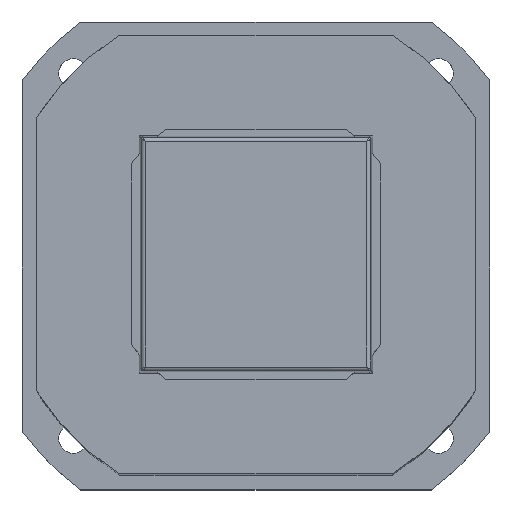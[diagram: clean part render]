
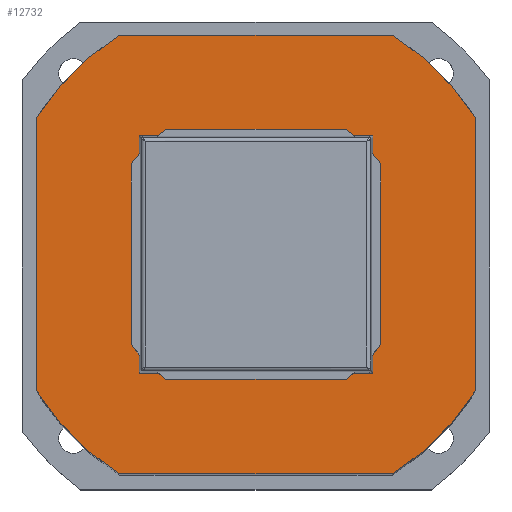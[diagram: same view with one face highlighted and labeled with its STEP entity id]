
A CAD part, top view. The second image highlights one B-rep face of the part: STEP entity #12732.
In plain terms, the highlighted planar face has unit normal (0, 0, 1).
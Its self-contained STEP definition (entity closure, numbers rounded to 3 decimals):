
#3541=CIRCLE('',#14130,132.5);
#3543=CIRCLE('',#14134,132.5);
#3545=CIRCLE('',#14138,132.5);
#3547=CIRCLE('',#14144,132.5);
#4315=VERTEX_POINT('',#18307);
#4316=VERTEX_POINT('',#18309);
#4318=VERTEX_POINT('',#18315);
#4320=VERTEX_POINT('',#18321);
#4322=VERTEX_POINT('',#18327);
#4324=VERTEX_POINT('',#18333);
#4326=VERTEX_POINT('',#18339);
#4328=VERTEX_POINT('',#18345);
#5372=LINE('',#18316,#15368);
#5376=LINE('',#18328,#15372);
#5380=LINE('',#18340,#15376);
#5382=LINE('',#18344,#15378);
#6468=EDGE_CURVE('',#4316,#4315,#3541,.T.);
#6472=EDGE_CURVE('',#4315,#4318,#5372,.T.);
#6475=EDGE_CURVE('',#4318,#4320,#3543,.T.);
#6478=EDGE_CURVE('',#4320,#4322,#5376,.T.);
#6481=EDGE_CURVE('',#4322,#4324,#3545,.T.);
#6484=EDGE_CURVE('',#4324,#4326,#5380,.T.);
#6486=EDGE_CURVE('',#4328,#4316,#5382,.T.);
#6489=EDGE_CURVE('',#4326,#4328,#3547,.T.);
#8659=ORIENTED_EDGE('',*,*,#6484,.T.);
#8660=ORIENTED_EDGE('',*,*,#6489,.T.);
#8661=ORIENTED_EDGE('',*,*,#6486,.T.);
#8662=ORIENTED_EDGE('',*,*,#6468,.T.);
#8663=ORIENTED_EDGE('',*,*,#6472,.T.);
#8664=ORIENTED_EDGE('',*,*,#6475,.T.);
#8665=ORIENTED_EDGE('',*,*,#6478,.T.);
#8666=ORIENTED_EDGE('',*,*,#6481,.T.);
#11056=EDGE_LOOP('',(#8659,#8660,#8661,#8662,#8663,#8664,#8665,#8666));
#11946=FACE_BOUND('',#11056,.T.);
#12732=ADVANCED_FACE('',(#11946),#16079,.T.);
#14130=AXIS2_PLACEMENT_3D('',#18308,#24394,#24395);
#14134=AXIS2_PLACEMENT_3D('',#18322,#24406,#24407);
#14138=AXIS2_PLACEMENT_3D('',#18334,#24417,#24418);
#14144=AXIS2_PLACEMENT_3D('',#18350,#24432,#24433);
#14145=AXIS2_PLACEMENT_3D('',#18351,#24434,$);
#15368=VECTOR('',#24400,1.);
#15372=VECTOR('',#24411,1.);
#15376=VECTOR('',#24422,1.);
#15378=VECTOR('',#24425,1.);
#16079=PLANE('',#14145);
#18307=CARTESIAN_POINT('',(-70.,-112.5,0.));
#18308=CARTESIAN_POINT('',(0.,0.,0.));
#18309=CARTESIAN_POINT('',(-112.5,-70.,0.));
#18315=CARTESIAN_POINT('',(70.,-112.5,0.));
#18316=CARTESIAN_POINT('',(-70.,-112.5,0.));
#18321=CARTESIAN_POINT('',(112.5,-70.,0.));
#18322=CARTESIAN_POINT('',(0.,0.,0.));
#18327=CARTESIAN_POINT('',(112.5,70.,0.));
#18328=CARTESIAN_POINT('',(112.5,-70.,0.));
#18333=CARTESIAN_POINT('',(70.,112.5,0.));
#18334=CARTESIAN_POINT('',(0.,0.,0.));
#18339=CARTESIAN_POINT('',(-70.,112.5,0.));
#18340=CARTESIAN_POINT('',(70.,112.5,0.));
#18344=CARTESIAN_POINT('',(-112.5,70.,0.));
#18345=CARTESIAN_POINT('',(-112.5,70.,0.));
#18350=CARTESIAN_POINT('',(0.,0.,0.));
#18351=CARTESIAN_POINT('',(0.,0.,0.));
#24394=DIRECTION('',(0.,0.,1.));
#24395=DIRECTION('',(132.5,0.,0.));
#24400=DIRECTION('',(1.,0.,0.));
#24406=DIRECTION('',(0.,0.,1.));
#24407=DIRECTION('',(132.5,0.,0.));
#24411=DIRECTION('',(0.,1.,0.));
#24417=DIRECTION('',(0.,0.,1.));
#24418=DIRECTION('',(132.5,0.,0.));
#24422=DIRECTION('',(-1.,0.,0.));
#24425=DIRECTION('',(0.,-1.,0.));
#24432=DIRECTION('',(0.,0.,1.));
#24433=DIRECTION('',(132.5,0.,0.));
#24434=DIRECTION('',(0.,0.,1.));
